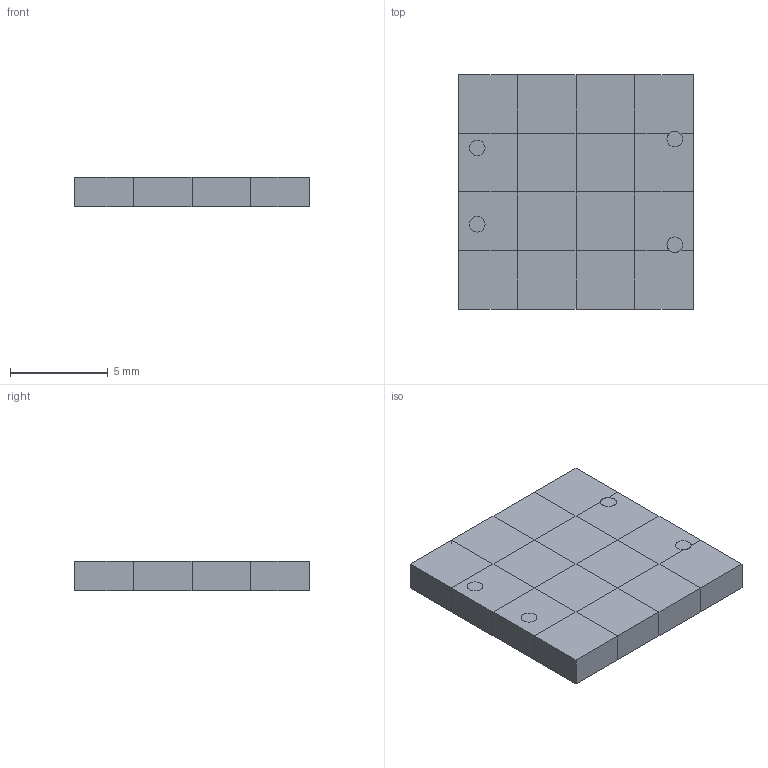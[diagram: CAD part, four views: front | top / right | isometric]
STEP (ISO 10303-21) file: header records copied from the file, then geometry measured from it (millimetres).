
FILE_DESCRIPTION(('Open CASCADE Model'),'2;1');
FILE_NAME('Open CASCADE Shape Model','2026-11-27T10:08:27',('Author'),( 'Open CASCADE'),'Open CASCADE STEP processor 7.9','Open CASCADE 7.9' ,'Unknown');
FILE_SCHEMA(('AUTOMOTIVE_DESIGN { 1 0 10303 214 1 1 1 1 }'));
Length unit declared in the file: millimetre
Products named in the file (3): manifold_N17; fluid; solid
Assembly tree (2 placements, depth 2):
  manifold_N17
    fluid
    solid
Bounding box: 12 x 12 x 1.5 mm (x, y, z)
Volume: 216 mm3; surface area: 1430.5 mm2
Topology: 2 solids, 2 shells, 1240 faces, 4260 edges, 2392 vertices
Faces by surface type: plane 1232, cylinder 8
Full cylindrical faces by diameter (mm): 0.8 x8
Entity records: 100294 total; most frequent: CARTESIAN_POINT 17455, DIRECTION 15042, LINE 12252, VECTOR 12252, ORIENTED_EDGE 8520, PCURVE 8520, DEFINITIONAL_REPRESENTATION 8520, EDGE_CURVE 4260
